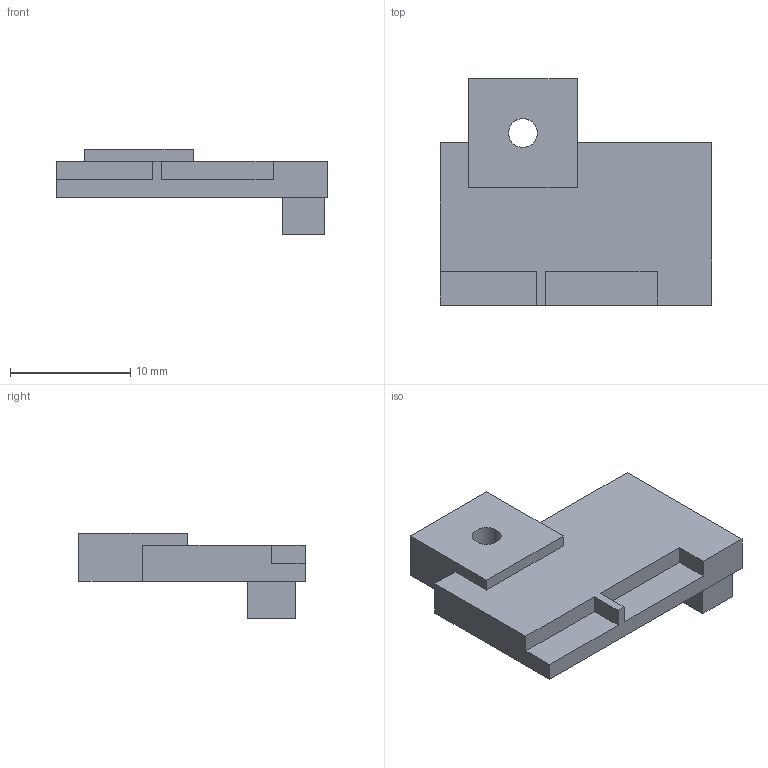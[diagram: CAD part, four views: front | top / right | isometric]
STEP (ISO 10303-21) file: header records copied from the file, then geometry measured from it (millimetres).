
FILE_DESCRIPTION(('Open CASCADE Model'),'2;1');
FILE_NAME('P07-P07_root_lid.step', '', ('Noah Wilson'), (''), '', '', '');
FILE_SCHEMA(('AUTOMOTIVE_DESIGN { 1 0 10303 214 1 1 1 1 }'));
Length unit declared in the file: millimetre
Products named in the file (1): COMPOUND
Bounding box: 22.58 x 18.8 x 7.1 mm (x, y, z)
Volume: 1091.2 mm3; surface area: 1065.4 mm2
Topology: 1 solids, 1 shells, 25 faces, 66 edges, 44 vertices
Faces by surface type: plane 24, cylinder 1
Full cylindrical faces by diameter (mm): 2.4 x1
Entity records: 1604 total; most frequent: CARTESIAN_POINT 298, DIRECTION 222, LINE 164, VECTOR 164, ORIENTED_EDGE 132, PCURVE 132, DEFINITIONAL_REPRESENTATION 132, EDGE_CURVE 66
